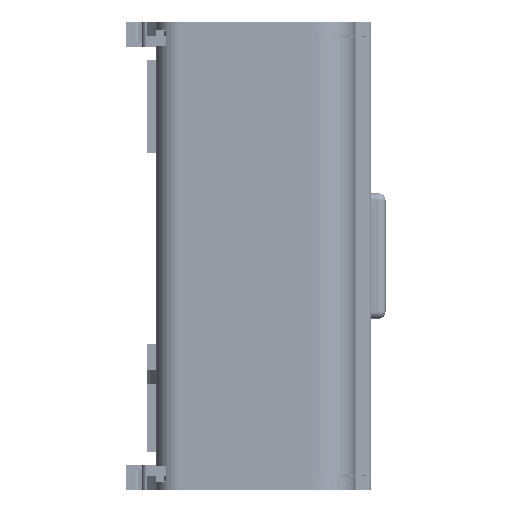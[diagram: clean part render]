
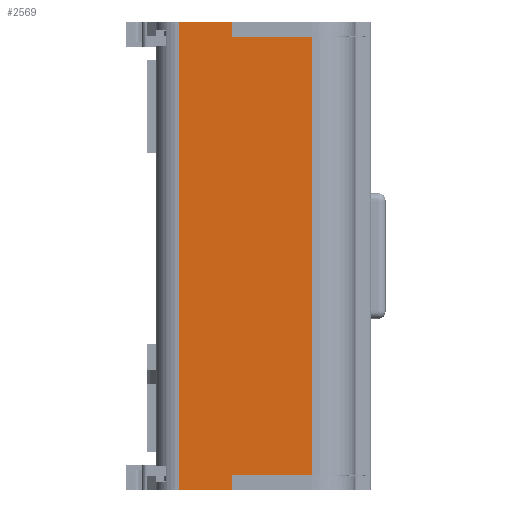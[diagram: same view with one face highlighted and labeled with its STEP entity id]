
A CAD part, front view. The second image highlights one B-rep face of the part: STEP entity #2569.
In plain terms, the highlighted planar face has unit normal (0, -1, 0).
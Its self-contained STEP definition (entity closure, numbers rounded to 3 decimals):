
#2569=ADVANCED_FACE('',(#4656),#3777,.T.);
#3777=PLANE('',#24089);
#4656=FACE_OUTER_BOUND('',#5735,.T.);
#5735=EDGE_LOOP('',(#7150,#7151,#7152,#7153,#7154,#7155,#7156,#7157));
#7150=ORIENTED_EDGE('',*,*,#15918,.F.);
#7151=ORIENTED_EDGE('',*,*,#15919,.F.);
#7152=ORIENTED_EDGE('',*,*,#15920,.T.);
#7153=ORIENTED_EDGE('',*,*,#15921,.F.);
#7154=ORIENTED_EDGE('',*,*,#15898,.F.);
#7155=ORIENTED_EDGE('',*,*,#15922,.T.);
#7156=ORIENTED_EDGE('',*,*,#15923,.F.);
#7157=ORIENTED_EDGE('',*,*,#15924,.T.);
#13686=VERTEX_POINT('',#31081);
#13687=VERTEX_POINT('',#31082);
#13706=VERTEX_POINT('',#31123);
#13707=VERTEX_POINT('',#31124);
#13708=VERTEX_POINT('',#31126);
#13709=VERTEX_POINT('',#31128);
#13710=VERTEX_POINT('',#31131);
#13711=VERTEX_POINT('',#31133);
#15898=EDGE_CURVE('',#13686,#13687,#19176,.T.);
#15918=EDGE_CURVE('',#13706,#13707,#19190,.T.);
#15919=EDGE_CURVE('',#13708,#13706,#19191,.T.);
#15920=EDGE_CURVE('',#13708,#13709,#19192,.T.);
#15921=EDGE_CURVE('',#13687,#13709,#19193,.T.);
#15922=EDGE_CURVE('',#13686,#13710,#19194,.T.);
#15923=EDGE_CURVE('',#13711,#13710,#19195,.T.);
#15924=EDGE_CURVE('',#13711,#13707,#19196,.T.);
#19176=LINE('',#31080,#21535);
#19190=LINE('',#31122,#21549);
#19191=LINE('',#31125,#21550);
#19192=LINE('',#31127,#21551);
#19193=LINE('',#31129,#21552);
#19194=LINE('',#31130,#21553);
#19195=LINE('',#31132,#21554);
#19196=LINE('',#31134,#21555);
#21535=VECTOR('',#25632,1.);
#21549=VECTOR('',#25662,1.);
#21550=VECTOR('',#25663,1.);
#21551=VECTOR('',#25664,1.);
#21552=VECTOR('',#25665,1.);
#21553=VECTOR('',#25666,1.);
#21554=VECTOR('',#25667,1.);
#21555=VECTOR('',#25668,1.);
#24089=AXIS2_PLACEMENT_3D('',#31135,#25669,#25670);
#25632=DIRECTION('',(0.,0.,1.));
#25662=DIRECTION('',(0.,0.,-1.));
#25663=DIRECTION('',(1.,0.,0.));
#25664=DIRECTION('',(0.,0.,1.));
#25665=DIRECTION('',(1.,0.,0.));
#25666=DIRECTION('',(1.,0.,0.));
#25667=DIRECTION('',(0.,0.,-1.));
#25668=DIRECTION('',(1.,0.,0.));
#25669=DIRECTION('',(0.,-1.,0.));
#25670=DIRECTION('',(0.,0.,1.));
#31080=CARTESIAN_POINT('',(-14.817,-42.063,-196.241));
#31081=CARTESIAN_POINT('',(-14.817,-42.063,-23.765));
#31082=CARTESIAN_POINT('',(-14.817,-42.063,69.235));
#31122=CARTESIAN_POINT('',(11.683,-42.063,-196.241));
#31123=CARTESIAN_POINT('',(11.683,-42.063,66.235));
#31124=CARTESIAN_POINT('',(11.683,-42.063,-20.765));
#31125=CARTESIAN_POINT('',(-32.836,-42.063,66.235));
#31126=CARTESIAN_POINT('',(-4.317,-42.063,66.235));
#31127=CARTESIAN_POINT('',(-4.317,-42.063,87.623));
#31128=CARTESIAN_POINT('',(-4.317,-42.063,69.235));
#31129=CARTESIAN_POINT('',(-32.836,-42.063,69.235));
#31130=CARTESIAN_POINT('',(-32.836,-42.063,-23.765));
#31131=CARTESIAN_POINT('',(-4.317,-42.063,-23.765));
#31132=CARTESIAN_POINT('',(-4.317,-42.063,-80.153));
#31133=CARTESIAN_POINT('',(-4.317,-42.063,-20.765));
#31134=CARTESIAN_POINT('',(-32.836,-42.063,-20.765));
#31135=CARTESIAN_POINT('',(-32.836,-42.063,-196.241));
